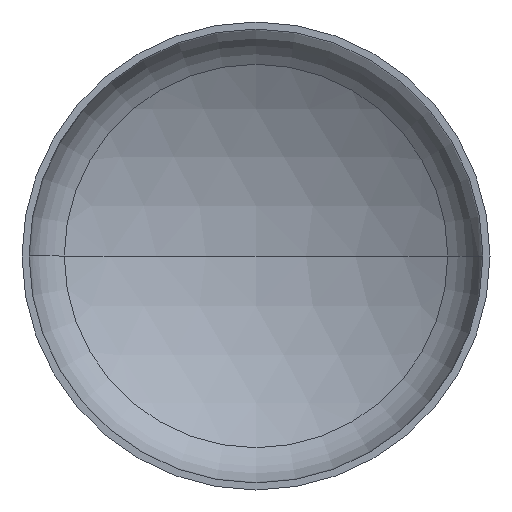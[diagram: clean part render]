
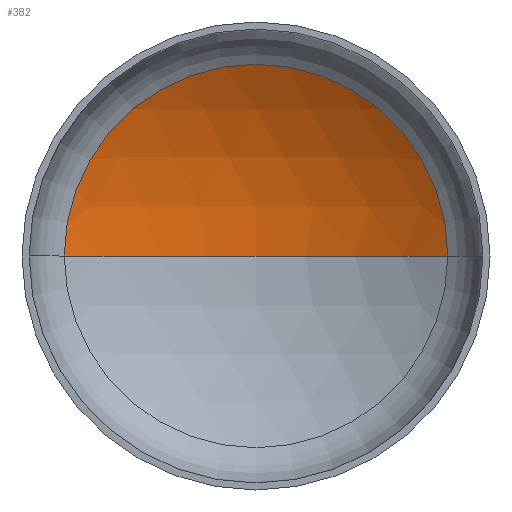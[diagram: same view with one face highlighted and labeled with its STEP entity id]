
A CAD part, front view. The second image highlights one B-rep face of the part: STEP entity #382.
In plain terms, the highlighted spherical face has radius 6000 mm.
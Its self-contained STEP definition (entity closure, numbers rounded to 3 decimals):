
#1 = ORIENTED_EDGE ( 'NONE', *, *, #101, .F. ) ;
#11 = DIRECTION ( 'NONE',  ( 1., 0., 0. ) ) ;
#36 = VERTEX_POINT ( 'NONE', #45 ) ;
#37 = CARTESIAN_POINT ( 'NONE',  ( 0., 1913.43, 0. ) ) ;
#42 = AXIS2_PLACEMENT_3D ( 'NONE', #368, #236, #394 ) ;
#45 = CARTESIAN_POINT ( 'NONE',  ( -3072.446, 1067.077, 0. ) ) ;
#48 = AXIS2_PLACEMENT_3D ( 'NONE', #298, #163, #320 ) ;
#50 = AXIS2_PLACEMENT_3D ( 'NONE', #393, #254, #11 ) ;
#52 = VERTEX_POINT ( 'NONE', #37 ) ;
#97 = EDGE_CURVE ( 'NONE', #128, #36, #253, .T. ) ;
#99 = EDGE_CURVE ( 'NONE', #52, #128, #193, .T. ) ;
#101 = EDGE_CURVE ( 'NONE', #52, #36, #367, .T. ) ;
#105 = ORIENTED_EDGE ( 'NONE', *, *, #97, .T. ) ;
#116 = ORIENTED_EDGE ( 'NONE', *, *, #99, .T. ) ;
#121 = FACE_OUTER_BOUND ( 'NONE', #136, .T. ) ;
#128 = VERTEX_POINT ( 'NONE', #165 ) ;
#136 = EDGE_LOOP ( 'NONE', ( #1, #116, #105 ) ) ;
#163 = DIRECTION ( 'NONE',  ( 0., 0., -1. ) ) ;
#165 = CARTESIAN_POINT ( 'NONE',  ( 3072.446, 1067.077, 0. ) ) ;
#193 = CIRCLE ( 'NONE', #48, 6000. ) ;
#236 = DIRECTION ( 'NONE',  ( 0., 0., 1. ) ) ;
#253 = CIRCLE ( 'NONE', #50, 3072.446 ) ;
#254 = DIRECTION ( 'NONE',  ( 0., -1., 0. ) ) ;
#257 = SPHERICAL_SURFACE ( 'NONE', #337, 6000. ) ;
#264 = DIRECTION ( 'NONE',  ( 0., 0., -1. ) ) ;
#285 = CARTESIAN_POINT ( 'NONE',  ( 0., -4086.57, 0. ) ) ;
#298 = CARTESIAN_POINT ( 'NONE',  ( 0., -4086.57, 0. ) ) ;
#320 = DIRECTION ( 'NONE',  ( -1., 0., 0. ) ) ;
#337 = AXIS2_PLACEMENT_3D ( 'NONE', #285, #264, #349 ) ;
#349 = DIRECTION ( 'NONE',  ( -1., 0., 0. ) ) ;
#367 = CIRCLE ( 'NONE', #42, 6000. ) ;
#368 = CARTESIAN_POINT ( 'NONE',  ( 0., -4086.57, 0. ) ) ;
#382 = ADVANCED_FACE ( 'NONE', ( #121 ), #257, .F. ) ;
#393 = CARTESIAN_POINT ( 'NONE',  ( 0., 1067.077, 0. ) ) ;
#394 = DIRECTION ( 'NONE',  ( 1., 0., 0. ) ) ;
